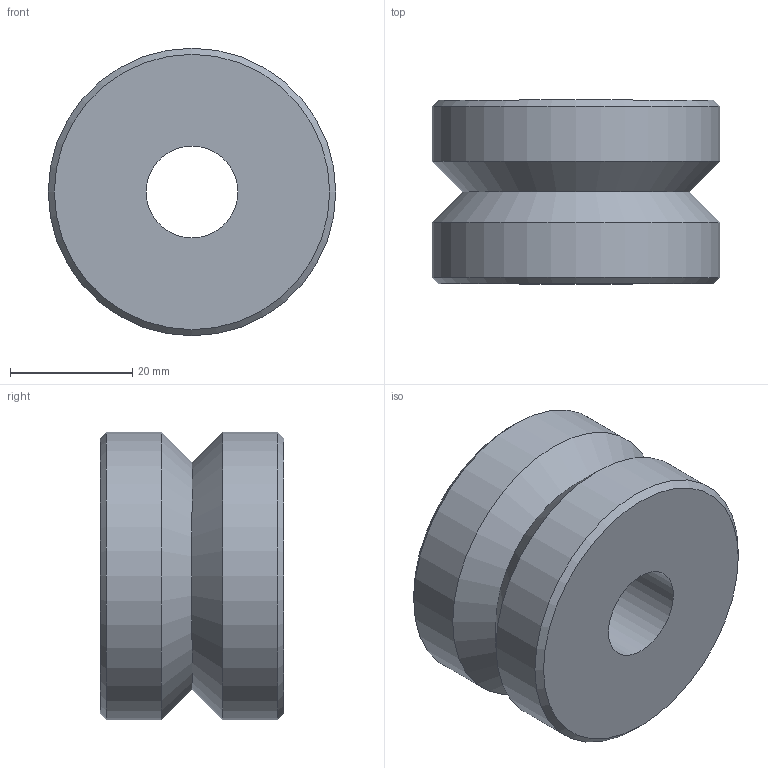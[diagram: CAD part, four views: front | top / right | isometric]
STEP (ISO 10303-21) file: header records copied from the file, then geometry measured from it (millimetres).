
FILE_DESCRIPTION( ( 'Unknown' ), '1' );
FILE_NAME( 'F:/navkite transat/construction/2016/3D ET ASSEMBLAGES/desal/DES 03.stp', 'Unknown', ( 'GMA' ), ( 'Unknown' ), 'XStep 1.0', 'Unknown', ' ' );
FILE_SCHEMA( ( 'automotive_design' ) );
Length unit declared in the file: millimetre
Products named in the file (1): 1
Bounding box: 47 x 30 x 47 mm (x, y, z)
Volume: 43171.8 mm3; surface area: 9173.7 mm2
Topology: 1 solids, 1 shells, 9 faces, 18 edges, 11 vertices
Faces by surface type: cone 4, cylinder 3, plane 2
Full cylindrical faces by diameter (mm): 15 x1, 47 x2
Entity records: 276 total; most frequent: DIRECTION 38, CARTESIAN_POINT 28, AXIS2_PLACEMENT_3D 19, EDGE_LOOP 18, ORIENTED_EDGE 18, FACE_OUTER_BOUND 12, STYLED_ITEM 9, PRESENTATION_STYLE_ASSIGNMENT 9
